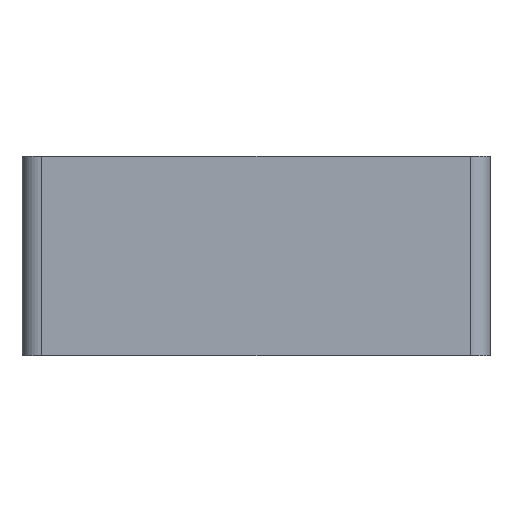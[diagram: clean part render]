
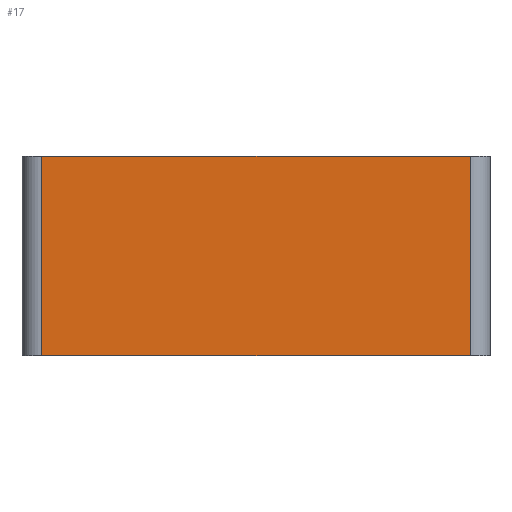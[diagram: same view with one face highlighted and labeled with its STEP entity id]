
A CAD part, left-side view. The second image highlights one B-rep face of the part: STEP entity #17.
In plain terms, the highlighted planar face has unit normal (-1, 0, 0).
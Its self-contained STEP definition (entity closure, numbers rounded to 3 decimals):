
#17 = ADVANCED_FACE('',(#18),#32,.F.);
#18 = FACE_BOUND('',#19,.F.);
#19 = EDGE_LOOP('',(#20,#55,#83,#111));
#20 = ORIENTED_EDGE('',*,*,#21,.F.);
#21 = EDGE_CURVE('',#22,#24,#26,.T.);
#22 = VERTEX_POINT('',#23);
#23 = CARTESIAN_POINT('',(-11.4,-8.6,8.));
#24 = VERTEX_POINT('',#25);
#25 = CARTESIAN_POINT('',(-11.4,8.6,8.));
#26 = SURFACE_CURVE('',#27,(#31,#43),.PCURVE_S1.);
#27 = LINE('',#28,#29);
#28 = CARTESIAN_POINT('',(-11.4,-9.4,8.));
#29 = VECTOR('',#30,1.);
#30 = DIRECTION('',(0.,1.,0.));
#31 = PCURVE('',#32,#37);
#32 = PLANE('',#33);
#33 = AXIS2_PLACEMENT_3D('',#34,#35,#36);
#34 = CARTESIAN_POINT('',(-11.4,-9.4,0.));
#35 = DIRECTION('',(1.,0.,0.));
#36 = DIRECTION('',(0.,0.,1.));
#37 = DEFINITIONAL_REPRESENTATION('',(#38),#42);
#38 = LINE('',#39,#40);
#39 = CARTESIAN_POINT('',(8.,0.));
#40 = VECTOR('',#41,1.);
#41 = DIRECTION('',(0.,-1.));
#42 = ( GEOMETRIC_REPRESENTATION_CONTEXT(2) 
PARAMETRIC_REPRESENTATION_CONTEXT() REPRESENTATION_CONTEXT('2D SPACE',''
  ) );
#43 = PCURVE('',#44,#49);
#44 = PLANE('',#45);
#45 = AXIS2_PLACEMENT_3D('',#46,#47,#48);
#46 = CARTESIAN_POINT('',(-11.4,-9.4,8.));
#47 = DIRECTION('',(0.,0.,1.));
#48 = DIRECTION('',(1.,0.,0.));
#49 = DEFINITIONAL_REPRESENTATION('',(#50),#54);
#50 = LINE('',#51,#52);
#51 = CARTESIAN_POINT('',(0.,0.));
#52 = VECTOR('',#53,1.);
#53 = DIRECTION('',(0.,1.));
#54 = ( GEOMETRIC_REPRESENTATION_CONTEXT(2) 
PARAMETRIC_REPRESENTATION_CONTEXT() REPRESENTATION_CONTEXT('2D SPACE',''
  ) );
#55 = ORIENTED_EDGE('',*,*,#56,.F.);
#56 = EDGE_CURVE('',#57,#22,#59,.T.);
#57 = VERTEX_POINT('',#58);
#58 = CARTESIAN_POINT('',(-11.4,-8.6,0.));
#59 = SURFACE_CURVE('',#60,(#64,#71),.PCURVE_S1.);
#60 = LINE('',#61,#62);
#61 = CARTESIAN_POINT('',(-11.4,-8.6,0.));
#62 = VECTOR('',#63,1.);
#63 = DIRECTION('',(0.,0.,1.));
#64 = PCURVE('',#32,#65);
#65 = DEFINITIONAL_REPRESENTATION('',(#66),#70);
#66 = LINE('',#67,#68);
#67 = CARTESIAN_POINT('',(0.,-0.8));
#68 = VECTOR('',#69,1.);
#69 = DIRECTION('',(1.,0.));
#70 = ( GEOMETRIC_REPRESENTATION_CONTEXT(2) 
PARAMETRIC_REPRESENTATION_CONTEXT() REPRESENTATION_CONTEXT('2D SPACE',''
  ) );
#71 = PCURVE('',#72,#77);
#72 = CYLINDRICAL_SURFACE('',#73,0.8);
#73 = AXIS2_PLACEMENT_3D('',#74,#75,#76);
#74 = CARTESIAN_POINT('',(-10.6,-8.6,0.));
#75 = DIRECTION('',(0.,0.,1.));
#76 = DIRECTION('',(-1.,-0.,0.));
#77 = DEFINITIONAL_REPRESENTATION('',(#78),#82);
#78 = LINE('',#79,#80);
#79 = CARTESIAN_POINT('',(0.,0.));
#80 = VECTOR('',#81,1.);
#81 = DIRECTION('',(0.,1.));
#82 = ( GEOMETRIC_REPRESENTATION_CONTEXT(2) 
PARAMETRIC_REPRESENTATION_CONTEXT() REPRESENTATION_CONTEXT('2D SPACE',''
  ) );
#83 = ORIENTED_EDGE('',*,*,#84,.T.);
#84 = EDGE_CURVE('',#57,#85,#87,.T.);
#85 = VERTEX_POINT('',#86);
#86 = CARTESIAN_POINT('',(-11.4,8.6,0.));
#87 = SURFACE_CURVE('',#88,(#92,#99),.PCURVE_S1.);
#88 = LINE('',#89,#90);
#89 = CARTESIAN_POINT('',(-11.4,-9.4,0.));
#90 = VECTOR('',#91,1.);
#91 = DIRECTION('',(0.,1.,0.));
#92 = PCURVE('',#32,#93);
#93 = DEFINITIONAL_REPRESENTATION('',(#94),#98);
#94 = LINE('',#95,#96);
#95 = CARTESIAN_POINT('',(0.,0.));
#96 = VECTOR('',#97,1.);
#97 = DIRECTION('',(0.,-1.));
#98 = ( GEOMETRIC_REPRESENTATION_CONTEXT(2) 
PARAMETRIC_REPRESENTATION_CONTEXT() REPRESENTATION_CONTEXT('2D SPACE',''
  ) );
#99 = PCURVE('',#100,#105);
#100 = PLANE('',#101);
#101 = AXIS2_PLACEMENT_3D('',#102,#103,#104);
#102 = CARTESIAN_POINT('',(-11.4,-9.4,0.));
#103 = DIRECTION('',(0.,0.,1.));
#104 = DIRECTION('',(1.,0.,0.));
#105 = DEFINITIONAL_REPRESENTATION('',(#106),#110);
#106 = LINE('',#107,#108);
#107 = CARTESIAN_POINT('',(0.,0.));
#108 = VECTOR('',#109,1.);
#109 = DIRECTION('',(0.,1.));
#110 = ( GEOMETRIC_REPRESENTATION_CONTEXT(2) 
PARAMETRIC_REPRESENTATION_CONTEXT() REPRESENTATION_CONTEXT('2D SPACE',''
  ) );
#111 = ORIENTED_EDGE('',*,*,#112,.T.);
#112 = EDGE_CURVE('',#85,#24,#113,.T.);
#113 = SURFACE_CURVE('',#114,(#118,#125),.PCURVE_S1.);
#114 = LINE('',#115,#116);
#115 = CARTESIAN_POINT('',(-11.4,8.6,0.));
#116 = VECTOR('',#117,1.);
#117 = DIRECTION('',(0.,0.,1.));
#118 = PCURVE('',#32,#119);
#119 = DEFINITIONAL_REPRESENTATION('',(#120),#124);
#120 = LINE('',#121,#122);
#121 = CARTESIAN_POINT('',(0.,-18.));
#122 = VECTOR('',#123,1.);
#123 = DIRECTION('',(1.,0.));
#124 = ( GEOMETRIC_REPRESENTATION_CONTEXT(2) 
PARAMETRIC_REPRESENTATION_CONTEXT() REPRESENTATION_CONTEXT('2D SPACE',''
  ) );
#125 = PCURVE('',#126,#131);
#126 = CYLINDRICAL_SURFACE('',#127,0.8);
#127 = AXIS2_PLACEMENT_3D('',#128,#129,#130);
#128 = CARTESIAN_POINT('',(-10.6,8.6,0.));
#129 = DIRECTION('',(0.,0.,1.));
#130 = DIRECTION('',(-1.,-0.,0.));
#131 = DEFINITIONAL_REPRESENTATION('',(#132),#136);
#132 = LINE('',#133,#134);
#133 = CARTESIAN_POINT('',(-0.,0.));
#134 = VECTOR('',#135,1.);
#135 = DIRECTION('',(-0.,1.));
#136 = ( GEOMETRIC_REPRESENTATION_CONTEXT(2) 
PARAMETRIC_REPRESENTATION_CONTEXT() REPRESENTATION_CONTEXT('2D SPACE',''
  ) );
